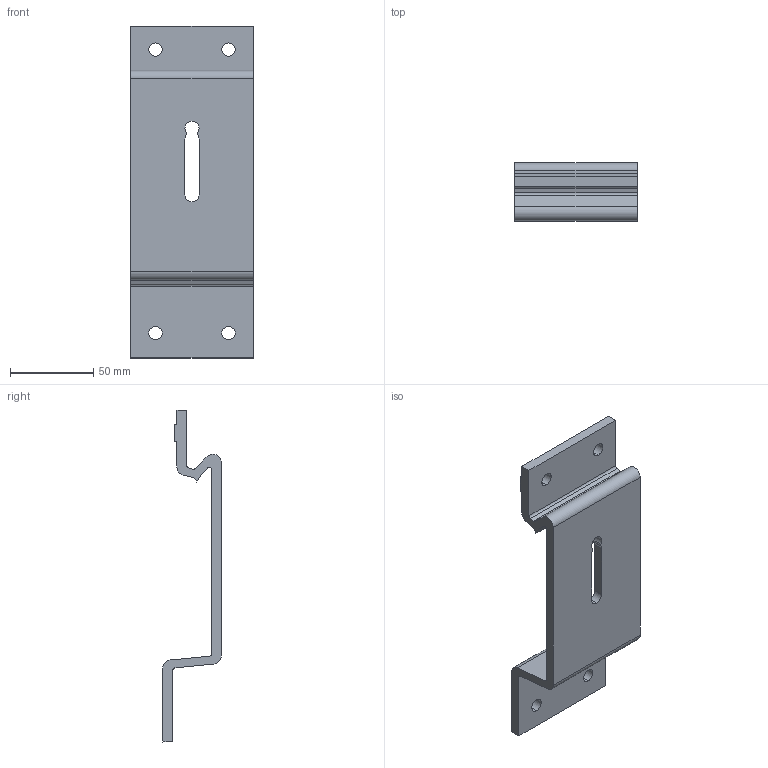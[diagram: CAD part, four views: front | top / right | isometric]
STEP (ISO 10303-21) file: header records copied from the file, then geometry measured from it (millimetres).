
FILE_DESCRIPTION (( 'STEP AP214' ), '1' );
FILE_NAME ('FAVBS 88C.step', '2017-04-05T08:00:32', ( '' ), ( '' ), 'SwSTEP 2.0', 'SolidWorks 2015', '' );
FILE_SCHEMA (( 'AUTOMOTIVE_DESIGN' ));
Length unit declared in the file: millimetre
Products named in the file (1): FAVBS 88C
Bounding box: 74 x 35.2 x 200 mm (x, y, z)
Volume: 105082.7 mm3; surface area: 41710.7 mm2
Topology: 1 solids, 1 shells, 48 faces, 138 edges, 92 vertices
Faces by surface type: cylinder 24, plane 24
Entity records: 1644 total; most frequent: DIRECTION 284, CARTESIAN_POINT 279, ORIENTED_EDGE 276, EDGE_CURVE 138, AXIS2_PLACEMENT_3D 97, VERTEX_POINT 92, VECTOR 90, LINE 90
